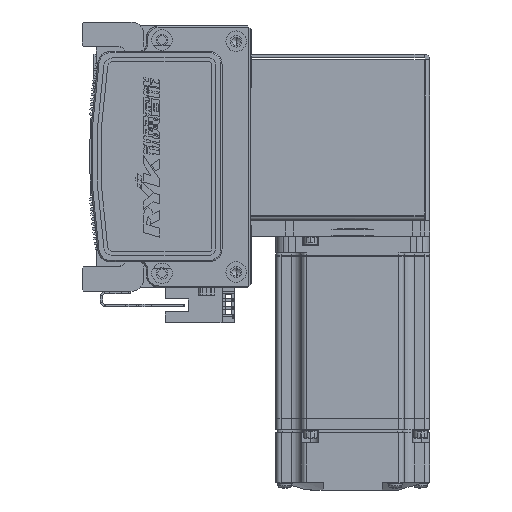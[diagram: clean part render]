
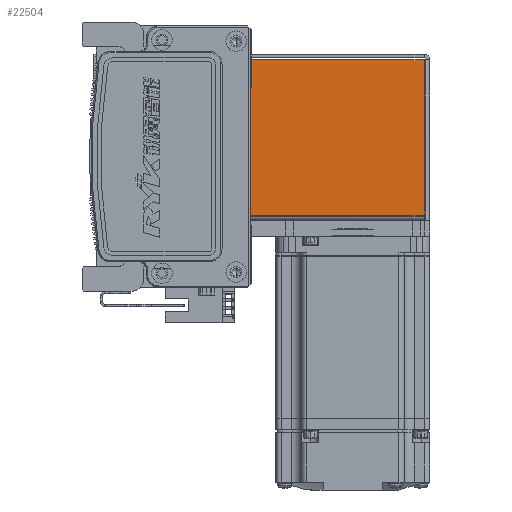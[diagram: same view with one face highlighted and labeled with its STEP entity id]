
A CAD part, left-side view. The second image highlights one B-rep face of the part: STEP entity #22504.
In plain terms, the highlighted planar face has unit normal (-1, 0, 0) as drawn and (0, 0, -1) by its records, which use the part's own axes.
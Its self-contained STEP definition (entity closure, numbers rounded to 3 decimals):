
#1113 = CARTESIAN_POINT ( 'NONE',  ( -30.293, 72.5, -35. ) ) ;
#1196 = ORIENTED_EDGE ( 'NONE', *, *, #40546, .T. ) ;
#2535 = VERTEX_POINT ( 'NONE', #35182 ) ;
#7113 = CARTESIAN_POINT ( 'NONE',  ( 30.263, 72.5, -35. ) ) ;
#7283 = EDGE_CURVE ( 'NONE', #2535, #54579, #52917, .T. ) ;
#7391 = AXIS2_PLACEMENT_3D ( 'NONE', #48097, #42928, #20081 ) ;
#18793 = EDGE_CURVE ( 'NONE', #72560, #56193, #63123, .T. ) ;
#20081 = DIRECTION ( 'NONE',  ( 0., -1., 0. ) ) ;
#22504 = ADVANCED_FACE ( 'NONE', ( #34331 ), #48855, .F. ) ;
#22932 = CARTESIAN_POINT ( 'NONE',  ( 32.5, 0.737, -35. ) ) ;
#24310 = DIRECTION ( 'NONE',  ( 0., -1., 0. ) ) ;
#27235 = EDGE_LOOP ( 'NONE', ( #35045, #44970, #1196, #62645 ) ) ;
#30715 = DIRECTION ( 'NONE',  ( 0., 1., 0. ) ) ;
#34331 = FACE_OUTER_BOUND ( 'NONE', #27235, .T. ) ;
#35045 = ORIENTED_EDGE ( 'NONE', *, *, #66112, .T. ) ;
#35182 = CARTESIAN_POINT ( 'NONE',  ( -30.293, 0.737, -35. ) ) ;
#37297 = DIRECTION ( 'NONE',  ( 1., 0., 0. ) ) ;
#38947 = LINE ( 'NONE', #64465, #39856 ) ;
#39315 = VECTOR ( 'NONE', #37297, 1000. ) ;
#39412 = DIRECTION ( 'NONE',  ( 1., 0., 0. ) ) ;
#39856 = VECTOR ( 'NONE', #30715, 1000. ) ;
#40546 = EDGE_CURVE ( 'NONE', #2535, #72560, #38947, .T. ) ;
#42928 = DIRECTION ( 'NONE',  ( 0., 0., 1. ) ) ;
#44970 = ORIENTED_EDGE ( 'NONE', *, *, #7283, .F. ) ;
#46344 = LINE ( 'NONE', #7113, #71133 ) ;
#48097 = CARTESIAN_POINT ( 'NONE',  ( 0., 0., -35. ) ) ;
#48855 = PLANE ( 'NONE',  #7391 ) ;
#52917 = LINE ( 'NONE', #22932, #60017 ) ;
#53520 = CARTESIAN_POINT ( 'NONE',  ( 0., 72.5, -35. ) ) ;
#54579 = VERTEX_POINT ( 'NONE', #61375 ) ;
#56193 = VERTEX_POINT ( 'NONE', #58384 ) ;
#58384 = CARTESIAN_POINT ( 'NONE',  ( 30.263, 72.5, -35. ) ) ;
#60017 = VECTOR ( 'NONE', #39412, 1000. ) ;
#61375 = CARTESIAN_POINT ( 'NONE',  ( 30.263, 0.737, -35. ) ) ;
#62645 = ORIENTED_EDGE ( 'NONE', *, *, #18793, .T. ) ;
#63123 = LINE ( 'NONE', #53520, #39315 ) ;
#64465 = CARTESIAN_POINT ( 'NONE',  ( -30.293, 0., -35. ) ) ;
#66112 = EDGE_CURVE ( 'NONE', #56193, #54579, #46344, .T. ) ;
#71133 = VECTOR ( 'NONE', #24310, 1000. ) ;
#72560 = VERTEX_POINT ( 'NONE', #1113 ) ;
